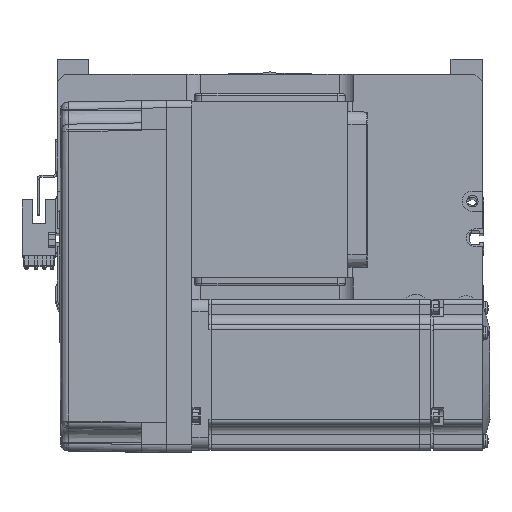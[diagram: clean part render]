
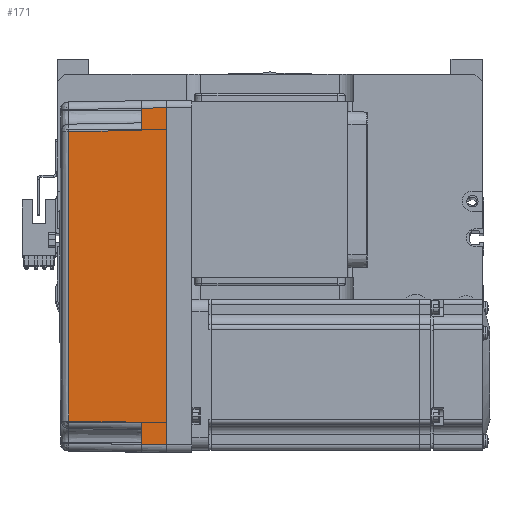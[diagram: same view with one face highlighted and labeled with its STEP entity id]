
A CAD part, top view. The second image highlights one B-rep face of the part: STEP entity #171.
In plain terms, the highlighted planar face has unit normal (-0.018, 0, 1) as drawn and (0, -1, 0.017) by its records, which use the part's own axes.
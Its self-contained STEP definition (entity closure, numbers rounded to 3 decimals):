
#82 = ORIENTED_EDGE ( 'NONE', *, *, #50526, .T. ) ;
#171 = ADVANCED_FACE ( 'NONE', ( #49723 ), #45460, .T. ) ;
#263 = ORIENTED_EDGE ( 'NONE', *, *, #14874, .T. ) ;
#534 = LINE ( 'NONE', #44016, #28787 ) ;
#2676 = DIRECTION ( 'NONE',  ( 0., -1., 0.017 ) ) ;
#3008 = VECTOR ( 'NONE', #21659, 1000. ) ;
#6382 = VERTEX_POINT ( 'NONE', #6668 ) ;
#6668 = CARTESIAN_POINT ( 'NONE',  ( 67., -36., 0. ) ) ;
#7697 = EDGE_CURVE ( 'NONE', #56093, #50124, #28997, .T. ) ;
#8523 = CARTESIAN_POINT ( 'NONE',  ( 67., -36., 0. ) ) ;
#14874 = EDGE_CURVE ( 'NONE', #35246, #39789, #534, .T. ) ;
#16631 = VECTOR ( 'NONE', #17757, 1000. ) ;
#17640 = EDGE_CURVE ( 'NONE', #28927, #56093, #26258, .T. ) ;
#17757 = DIRECTION ( 'NONE',  ( -0.017, -0.017, -1. ) ) ;
#19384 = CARTESIAN_POINT ( 'NONE',  ( 57.495, -35.32, 38.985 ) ) ;
#19486 = DIRECTION ( 'NONE',  ( 0.017, 0.017, 1. ) ) ;
#19910 = EDGE_CURVE ( 'NONE', #6382, #29644, #60107, .T. ) ;
#20303 = VECTOR ( 'NONE', #50891, 1000. ) ;
#21659 = DIRECTION ( 'NONE',  ( -0.017, 0.017, 1. ) ) ;
#21813 = CARTESIAN_POINT ( 'NONE',  ( 58., -35.825, 10. ) ) ;
#22016 = DIRECTION ( 'NONE',  ( 0., -0.017, -1. ) ) ;
#22924 = EDGE_CURVE ( 'NONE', #29644, #39789, #52199, .T. ) ;
#24991 = AXIS2_PLACEMENT_3D ( 'NONE', #59294, #2676, #22016 ) ;
#25539 = VECTOR ( 'NONE', #41351, 1000. ) ;
#26258 = LINE ( 'NONE', #60805, #25539 ) ;
#26683 = CARTESIAN_POINT ( 'NONE',  ( -57.495, -35.32, 38.985 ) ) ;
#27074 = CARTESIAN_POINT ( 'NONE',  ( -58., -35.825, 10. ) ) ;
#28589 = CARTESIAN_POINT ( 'NONE',  ( -57.495, -35.32, 38.985 ) ) ;
#28787 = VECTOR ( 'NONE', #29687, 1000. ) ;
#28927 = VERTEX_POINT ( 'NONE', #48114 ) ;
#28997 = LINE ( 'NONE', #54194, #3008 ) ;
#29644 = VERTEX_POINT ( 'NONE', #61412 ) ;
#29687 = DIRECTION ( 'NONE',  ( -1., 0., 0. ) ) ;
#31002 = EDGE_CURVE ( 'NONE', #52458, #35246, #48541, .T. ) ;
#31722 = EDGE_CURVE ( 'NONE', #50124, #52458, #42224, .T. ) ;
#33153 = CARTESIAN_POINT ( 'NONE',  ( -57.495, -35.32, 38.985 ) ) ;
#33398 = VECTOR ( 'NONE', #49083, 1000. ) ;
#33747 = CARTESIAN_POINT ( 'NONE',  ( 57.495, -35.32, 38.985 ) ) ;
#34356 = ORIENTED_EDGE ( 'NONE', *, *, #31002, .T. ) ;
#34574 = CARTESIAN_POINT ( 'NONE',  ( 0., -36., 0. ) ) ;
#35246 = VERTEX_POINT ( 'NONE', #27074 ) ;
#35777 = CARTESIAN_POINT ( 'NONE',  ( -66.826, -35.825, 10. ) ) ;
#37298 = ORIENTED_EDGE ( 'NONE', *, *, #17640, .T. ) ;
#39789 = VERTEX_POINT ( 'NONE', #35777 ) ;
#41351 = DIRECTION ( 'NONE',  ( -1., 0., 0. ) ) ;
#42224 = B_SPLINE_CURVE_WITH_KNOTS ( 'NONE', 3,
 ( #33747, #42674, #53019, #28589 ),
 .UNSPECIFIED., .F., .F.,
 ( 4, 4 ),
 ( 0., 1. ),
 .UNSPECIFIED. ) ;
#42674 = CARTESIAN_POINT ( 'NONE',  ( 19.165, -35.316, 39.181 ) ) ;
#43353 = EDGE_LOOP ( 'NONE', ( #82, #37298, #47283, #43730, #34356, #263, #46423, #53193 ) ) ;
#43730 = ORIENTED_EDGE ( 'NONE', *, *, #31722, .T. ) ;
#44016 = CARTESIAN_POINT ( 'NONE',  ( 70., -35.825, 10. ) ) ;
#45460 = PLANE ( 'NONE',  #24991 ) ;
#46423 = ORIENTED_EDGE ( 'NONE', *, *, #22924, .F. ) ;
#47283 = ORIENTED_EDGE ( 'NONE', *, *, #7697, .T. ) ;
#47792 = VECTOR ( 'NONE', #19486, 1000. ) ;
#48114 = CARTESIAN_POINT ( 'NONE',  ( 66.826, -35.825, 10. ) ) ;
#48541 = LINE ( 'NONE', #26683, #16631 ) ;
#49083 = DIRECTION ( 'NONE',  ( -1., 0., 0. ) ) ;
#49723 = FACE_OUTER_BOUND ( 'NONE', #43353, .T. ) ;
#50124 = VERTEX_POINT ( 'NONE', #19384 ) ;
#50526 = EDGE_CURVE ( 'NONE', #6382, #28927, #58148, .T. ) ;
#50891 = DIRECTION ( 'NONE',  ( -0.017, 0.017, 1. ) ) ;
#52199 = LINE ( 'NONE', #57180, #47792 ) ;
#52458 = VERTEX_POINT ( 'NONE', #33153 ) ;
#53019 = CARTESIAN_POINT ( 'NONE',  ( -19.165, -35.316, 39.181 ) ) ;
#53193 = ORIENTED_EDGE ( 'NONE', *, *, #19910, .F. ) ;
#54194 = CARTESIAN_POINT ( 'NONE',  ( 58., -35.825, 10. ) ) ;
#56093 = VERTEX_POINT ( 'NONE', #21813 ) ;
#57180 = CARTESIAN_POINT ( 'NONE',  ( -66.959, -35.958, 2.39 ) ) ;
#58148 = LINE ( 'NONE', #8523, #20303 ) ;
#59294 = CARTESIAN_POINT ( 'NONE',  ( 70., -36., 0. ) ) ;
#60107 = LINE ( 'NONE', #34574, #33398 ) ;
#60805 = CARTESIAN_POINT ( 'NONE',  ( 70., -35.825, 10. ) ) ;
#61412 = CARTESIAN_POINT ( 'NONE',  ( -67., -36., 0. ) ) ;
